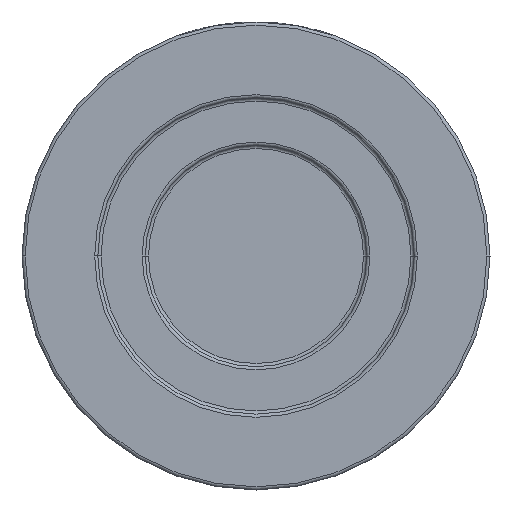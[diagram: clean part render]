
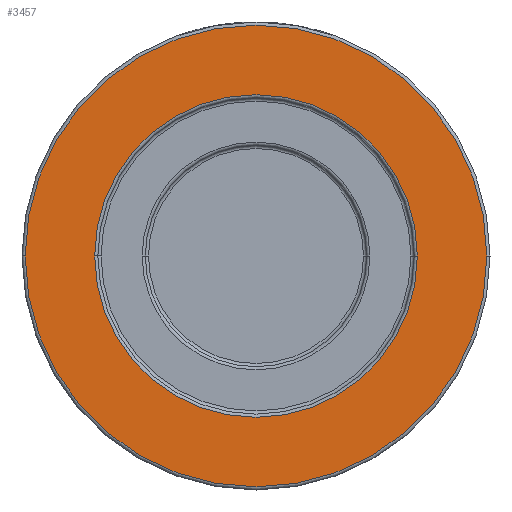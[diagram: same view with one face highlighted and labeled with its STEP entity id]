
A CAD part, front view. The second image highlights one B-rep face of the part: STEP entity #3457.
In plain terms, the highlighted planar face has unit normal (0, -1, 0).
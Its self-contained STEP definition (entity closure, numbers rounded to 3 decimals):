
#56 = CARTESIAN_POINT ( 'NONE',  ( 73., -50., 0. ) ) ;
#110 = EDGE_LOOP ( 'NONE', ( #3328, #1213 ) ) ;
#114 = EDGE_CURVE ( 'NONE', #649, #1153, #2790, .T. ) ;
#159 = VERTEX_POINT ( 'NONE', #3635 ) ;
#237 = DIRECTION ( 'NONE',  ( 1., 0., 0. ) ) ;
#255 = CIRCLE ( 'NONE', #1512, 51. ) ;
#291 = CARTESIAN_POINT ( 'NONE',  ( 0., -50., 0. ) ) ;
#309 = CARTESIAN_POINT ( 'NONE',  ( -73., -50., 0. ) ) ;
#367 = EDGE_CURVE ( 'NONE', #1153, #649, #4358, .T. ) ;
#603 = DIRECTION ( 'NONE',  ( 1., 0., 0. ) ) ;
#649 = VERTEX_POINT ( 'NONE', #309 ) ;
#766 = CARTESIAN_POINT ( 'NONE',  ( 0., -50., 0. ) ) ;
#874 = CIRCLE ( 'NONE', #3132, 51. ) ;
#991 = PLANE ( 'NONE',  #4151 ) ;
#1153 = VERTEX_POINT ( 'NONE', #56 ) ;
#1213 = ORIENTED_EDGE ( 'NONE', *, *, #114, .T. ) ;
#1398 = AXIS2_PLACEMENT_3D ( 'NONE', #291, #2112, #237 ) ;
#1420 = DIRECTION ( 'NONE',  ( 0., 1., 0. ) ) ;
#1512 = AXIS2_PLACEMENT_3D ( 'NONE', #766, #1420, #3521 ) ;
#1572 = VERTEX_POINT ( 'NONE', #1629 ) ;
#1615 = DIRECTION ( 'NONE',  ( 0., -1., 0. ) ) ;
#1629 = CARTESIAN_POINT ( 'NONE',  ( -51., -50., 0. ) ) ;
#1641 = CARTESIAN_POINT ( 'NONE',  ( 0., -50., 0. ) ) ;
#1745 = FACE_BOUND ( 'NONE', #4537, .T. ) ;
#1915 = DIRECTION ( 'NONE',  ( 1., 0., 0. ) ) ;
#2112 = DIRECTION ( 'NONE',  ( 0., -1., 0. ) ) ;
#2247 = AXIS2_PLACEMENT_3D ( 'NONE', #1641, #1615, #1915 ) ;
#2471 = DIRECTION ( 'NONE',  ( 0., -1., 0. ) ) ;
#2790 = CIRCLE ( 'NONE', #1398, 73. ) ;
#2843 = CARTESIAN_POINT ( 'NONE',  ( 74., -50., 0. ) ) ;
#2920 = CARTESIAN_POINT ( 'NONE',  ( 0., -50., 0. ) ) ;
#3132 = AXIS2_PLACEMENT_3D ( 'NONE', #2920, #3598, #3626 ) ;
#3328 = ORIENTED_EDGE ( 'NONE', *, *, #367, .T. ) ;
#3456 = EDGE_CURVE ( 'NONE', #1572, #159, #874, .T. ) ;
#3457 = ADVANCED_FACE ( 'NONE', ( #1745, #4042 ), #991, .T. ) ;
#3521 = DIRECTION ( 'NONE',  ( 1., 0., 0. ) ) ;
#3598 = DIRECTION ( 'NONE',  ( 0., 1., 0. ) ) ;
#3626 = DIRECTION ( 'NONE',  ( 1., 0., 0. ) ) ;
#3635 = CARTESIAN_POINT ( 'NONE',  ( 51., -50., 0. ) ) ;
#4042 = FACE_OUTER_BOUND ( 'NONE', #110, .T. ) ;
#4151 = AXIS2_PLACEMENT_3D ( 'NONE', #2843, #2471, #603 ) ;
#4358 = CIRCLE ( 'NONE', #2247, 73. ) ;
#4396 = EDGE_CURVE ( 'NONE', #159, #1572, #255, .T. ) ;
#4479 = ORIENTED_EDGE ( 'NONE', *, *, #3456, .T. ) ;
#4537 = EDGE_LOOP ( 'NONE', ( #4621, #4479 ) ) ;
#4621 = ORIENTED_EDGE ( 'NONE', *, *, #4396, .T. ) ;
